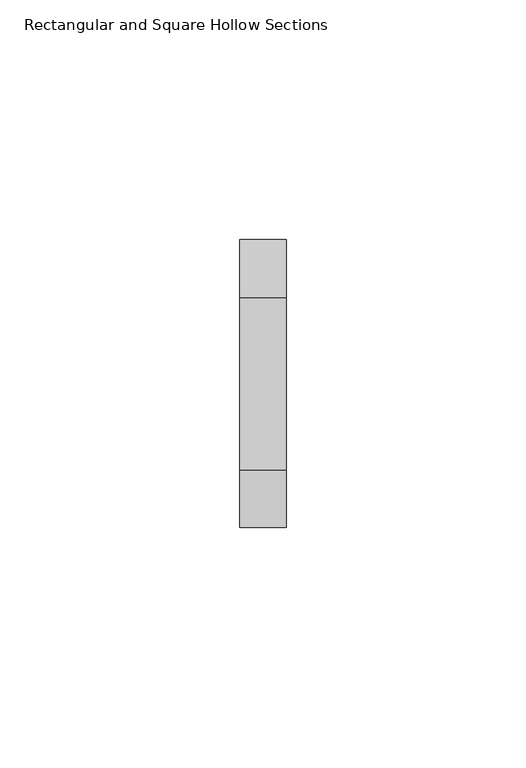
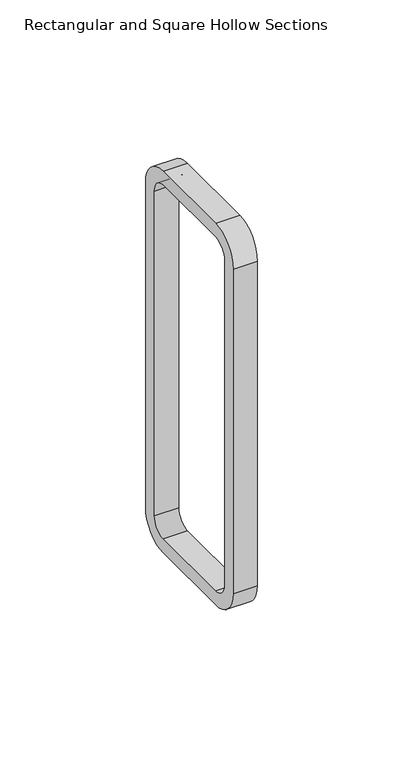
"""IFC4 building model written with IfcOpenShell, lengths in millimetres: beam geometry, Rectangular and Square Hollow Sections : TREC160x60x6."""

import ifcopenshell
import ifcopenshell.guid

model = None  # the IFC model being written
_history = None  # IfcOwnerHistory: only IFC2X3 demands one
_inside = {}  # id of a spatial element -> (the spatial element, [elements in it])
_under = {}  # id of a project, library or spatial element -> (it, [spatial elements below it])
_declared = {}  # id of a project -> (the project, [libraries it declares])
_typed = {}  # id of a type object -> (the type object, [elements of that type])
_made_of = {}  # id of a material, layer set ... -> (it, [elements and type objects made of it])


def new_model(schema):
    """Start an empty IFC model of exactly this schema.

    Asked for "IFC4X3", IfcOpenShell would pick the latest addendum, in which some entities
    have other attributes; the version numbers below select the first issue.
    IFC2X3 requires an IfcOwnerHistory on every rooted entity: one is made here for all.
    """
    global model, _history
    if schema == "IFC4X3":
        model = ifcopenshell.file(schema_version=(4, 3, 0, 0))
    else:
        model = ifcopenshell.file(schema=schema)
    _inside.clear()
    _under.clear()
    _declared.clear()
    _typed.clear()
    _made_of.clear()
    _history = None
    if model.schema == "IFC2X3":
        org = make("IfcOrganization", Name="unknown")
        user = make(
            "IfcPersonAndOrganization",
            ThePerson=make("IfcPerson", FamilyName="unknown"),
            TheOrganization=org,
        )
        app = make(
            "IfcApplication",
            ApplicationDeveloper=org,
            Version="unknown",
            ApplicationFullName="unknown",
            ApplicationIdentifier="unknown",
        )
        _history = make(
            "IfcOwnerHistory",
            OwningUser=user,
            OwningApplication=app,
            ChangeAction="ADDED",
            CreationDate=0,
        )
    return model


def make(cls, **values):
    """One entity of the class cls with the attributes given. An attribute that is None is left unset."""
    return model.create_entity(
        cls, **{name: value for name, value in values.items() if value is not None}
    )


def rooted(cls, **values):
    """An entity with a GlobalId (a new one), such as an element, a storey or a relation."""
    return make(cls, GlobalId=ifcopenshell.guid.new(), OwnerHistory=_history, **values)


def si_unit(unit_type, name, prefix=None):
    """IfcSIUnit, for example si_unit("LENGTHUNIT", "METRE", prefix="MILLI")."""
    return make("IfcSIUnit", UnitType=unit_type, Prefix=prefix, Name=name)


def assignment(units):
    """IfcUnitAssignment: the units of a project."""
    return None if units is None else make("IfcUnitAssignment", Units=units)


def point(xyz):
    """IfcCartesianPoint."""
    return None if xyz is None else make("IfcCartesianPoint", Coordinates=xyz)


def direction(xyz):
    """IfcDirection."""
    return None if xyz is None else make("IfcDirection", DirectionRatios=xyz)


def frame(location, z_axis=None, x_axis=None):
    """IfcAxis2Placement3D, a coordinate frame: its origin and axes. An axis left out is left unset."""
    return make(
        "IfcAxis2Placement3D",
        Location=point(location),
        Axis=direction(z_axis),
        RefDirection=direction(x_axis),
    )


def frame_2d(location, x_axis=None):
    """IfcAxis2Placement2D, a coordinate frame in the plane: its origin and x axis."""
    return make(
        "IfcAxis2Placement2D", Location=point(location), RefDirection=direction(x_axis)
    )


def origin():
    """The frame at (0, 0, 0) with its axes left unset."""
    return frame((0.0, 0.0, 0.0))


def place(relative_to, where):
    """IfcLocalPlacement: puts the frame where relative to a parent placement (None: the world)."""
    return make(
        "IfcLocalPlacement", PlacementRelTo=relative_to, RelativePlacement=where
    )


def context(
    kind, dimensions, precision=None, world=None, true_north=None, identifier=None
):
    """IfcGeometricRepresentationContext, for example the 3D "Model" context."""
    return make(
        "IfcGeometricRepresentationContext",
        ContextIdentifier=identifier,
        ContextType=kind,
        CoordinateSpaceDimension=dimensions,
        Precision=precision,
        WorldCoordinateSystem=world,
        TrueNorth=true_north,
    )


def project(units=None, contexts=None):
    """IfcProject with its units and contexts."""
    return rooted(
        "IfcProject",
        Name="project",
        RepresentationContexts=contexts,
        UnitsInContext=assignment(units),
    )


def spatial(cls, under=None, at=None, **own):
    """A site, building, storey or space (cls), placed at a placement, below another one or the project."""
    s = rooted(cls, ObjectPlacement=at, **own)
    if under is not None:
        _under.setdefault(under.id(), (under, []))[1].append(s)
    return s


def polyline(points):
    """IfcPolyline through the points."""
    return make("IfcPolyline", Points=[point(p) for p in points])


def circle_curve(where, radius):
    """IfcCircle in the frame where."""
    return make("IfcCircle", Position=where, Radius=radius)


def trimmed(basis, trim1, trim2, sense, master):
    """IfcTrimmedCurve: the piece of a basis curve between two trims."""
    return make(
        "IfcTrimmedCurve",
        BasisCurve=basis,
        Trim1=trim1,
        Trim2=trim2,
        SenseAgreement=sense,
        MasterRepresentation=master,
    )


def segment(curve, same_sense, transition):
    """IfcCompositeCurveSegment."""
    return make(
        "IfcCompositeCurveSegment",
        Transition=transition,
        SameSense=same_sense,
        ParentCurve=curve,
    )


def composite_curve(segments, self_intersect=None):
    """IfcCompositeCurve: segments joined end to end."""
    return make("IfcCompositeCurve", Segments=segments, SelfIntersect=self_intersect)


def outline(outer, holes=None, kind="AREA"):
    """IfcArbitraryClosedProfileDef: a profile drawn as a closed curve; with holes, ...WithVoids."""
    if holes is None:
        return make("IfcArbitraryClosedProfileDef", ProfileType=kind, OuterCurve=outer)
    return make(
        "IfcArbitraryProfileDefWithVoids",
        ProfileType=kind,
        OuterCurve=outer,
        InnerCurves=holes,
    )


def extrude(swept, where, along, depth):
    """IfcExtrudedAreaSolid: the profile swept, set in the frame where, extruded along a direction by depth."""
    return make(
        "IfcExtrudedAreaSolid",
        SweptArea=swept,
        Position=where,
        ExtrudedDirection=direction(along),
        Depth=depth,
    )


def shape(context_of_items, identifier, shape_type, items):
    """IfcShapeRepresentation: the items that make up one representation, for example the "Body"."""
    return make(
        "IfcShapeRepresentation",
        ContextOfItems=context_of_items,
        RepresentationIdentifier=identifier,
        RepresentationType=shape_type,
        Items=items,
    )


def source(mapping_origin, context_of_items, identifier, shape_type, items):
    """IfcRepresentationMap: a shape defined once, which mapped items show again and again."""
    return make(
        "IfcRepresentationMap",
        MappingOrigin=mapping_origin,
        MappedRepresentation=shape(context_of_items, identifier, shape_type, items),
    )


def transform(
    local_origin,
    x_axis=None,
    y_axis=None,
    z_axis=None,
    scale=None,
    scale2=None,
    scale3=None,
    uniform=True,
):
    """IfcCartesianTransformationOperator3D, or its non-uniform kind. x_axis, y_axis, z_axis: its Axis1, 2, 3."""
    if uniform:
        return make(
            "IfcCartesianTransformationOperator3D",
            Axis1=direction(x_axis),
            Axis2=direction(y_axis),
            LocalOrigin=point(local_origin),
            Scale=scale,
            Axis3=direction(z_axis),
        )
    return make(
        "IfcCartesianTransformationOperator3DnonUniform",
        Axis1=direction(x_axis),
        Axis2=direction(y_axis),
        LocalOrigin=point(local_origin),
        Scale=scale,
        Axis3=direction(z_axis),
        Scale2=scale2,
        Scale3=scale3,
    )


def mapped(mapping_source, mapping_target):
    """IfcMappedItem: shows the shape of a source again, moved by a transform."""
    return make(
        "IfcMappedItem", MappingSource=mapping_source, MappingTarget=mapping_target
    )


def made_of(thing, what):
    """Note that an element or type object is made of a material, layer set ...; save() writes the relation."""
    if what is not None:
        _made_of.setdefault(what.id(), (what, []))[1].append(thing)
    return thing


def element(
    cls,
    number,
    at=None,
    inside=None,
    cuts=None,
    type_object=None,
    material=None,
    context=None,
    identifier="Body",
    shape_type=None,
    held_by="IfcProductDefinitionShape",
    body=None,
    shapes=None,
    **own,
):
    """One element of the class cls, such as IfcWall. Its Tag is "e" and its number.

    at: its placement. inside: the storey or other place that contains it. cuts: it is an
    opening in that element (IfcRelVoidsElement). A single representation is given by context,
    identifier, shape_type and body (its items); several are given by shapes. held_by: the class
    of the entity that holds the representations. save() writes the other relations.
    """
    e = rooted(cls, Tag="e%d" % number, ObjectPlacement=at, **own)
    if body is not None:
        shapes = [shape(context, identifier, shape_type, body)]
    if shapes is not None:
        e.Representation = make(held_by, Representations=shapes)
    if inside is not None:
        _inside.setdefault(inside.id(), (inside, []))[1].append(e)
    if cuts is not None:
        rooted(
            "IfcRelVoidsElement", RelatingBuildingElement=cuts, RelatedOpeningElement=e
        )
    if type_object is not None:
        _typed.setdefault(type_object.id(), (type_object, []))[1].append(e)
    return made_of(e, material)


def aggregate(whole, parts):
    """IfcRelAggregates: a whole, such as a stair, and the parts it consists of."""
    return rooted("IfcRelAggregates", RelatingObject=whole, RelatedObjects=parts)


def save(model, path):
    """Write the relations noted so far, then the file.

    IfcRelAggregates (storeys below a building ...), IfcRelContainedInSpatialStructure (elements
    in a storey), IfcRelDefinesByType, IfcRelAssociatesMaterial and IfcRelDeclares: one each for
    every whole, place, type object, material and project.
    """
    for whole, parts in _under.values():
        aggregate(whole, parts)
    for where, things in _inside.values():
        rooted(
            "IfcRelContainedInSpatialStructure",
            RelatedElements=things,
            RelatingStructure=where,
        )
    for kind, things in _typed.values():
        rooted("IfcRelDefinesByType", RelatedObjects=things, RelatingType=kind)
    for what, things in _made_of.values():
        rooted("IfcRelAssociatesMaterial", RelatedObjects=things, RelatingMaterial=what)
    for by, libraries in _declared.values():
        rooted("IfcRelDeclares", RelatingContext=by, RelatedDefinitions=libraries)
    model.write(path)


def rectangular_and_square_hollow_sections_5a22e211(model_context):
    return source(origin(), model_context, "Body", "SweptSolid", [
        extrude(outline(composite_curve([segment(polyline([(30.0, 68.0), (30.0, -68.0)]), True, "CONTINUOUS"), segment(trimmed(circle_curve(frame_2d((18.0, -68.0)), 12.0), [point((30.0, -68.0))], [point((18.0, -80.0))], False, "CARTESIAN"), True, "CONTINUOUS"), segment(polyline([(18.0, -80.0), (-18.0, -80.0)]), True, "CONTINUOUS"), segment(trimmed(circle_curve(frame_2d((-18.0, -68.0)), 12.0), [point((-18.0, -80.0))], [point((-30.0, -68.0))], False, "CARTESIAN"), True, "CONTINUOUS"), segment(polyline([(-30.0, -68.0), (-30.0, 68.0)]), True, "CONTINUOUS"), segment(trimmed(circle_curve(frame_2d((-18.0, 68.0)), 12.0), [point((-30.0, 68.0))], [point((-18.0, 80.0))], False, "CARTESIAN"), True, "CONTINUOUS"), segment(polyline([(-18.0, 80.0), (18.0, 80.0)]), True, "CONTINUOUS"), segment(trimmed(circle_curve(frame_2d((18.0, 68.0)), 12.0), [point((18.0, 80.0))], [point((30.0, 68.0))], False, "CARTESIAN"), True, "CONTINUOUS")], self_intersect=False), holes=[composite_curve([segment(trimmed(circle_curve(frame_2d((-18.0, 68.0)), 6.0), [point((-18.0, 74.0))], [point((-24.0, 68.0))], True, "CARTESIAN"), True, "CONTINUOUS"), segment(polyline([(-24.0, 68.0), (-24.0, -68.0)]), True, "CONTINUOUS"), segment(trimmed(circle_curve(frame_2d((-18.0, -68.0)), 6.0), [point((-24.0, -68.0))], [point((-18.0, -74.0))], True, "CARTESIAN"), True, "CONTINUOUS"), segment(polyline([(-18.0, -74.0), (18.0, -74.0)]), True, "CONTINUOUS"), segment(trimmed(circle_curve(frame_2d((18.0, -68.0)), 6.0), [point((18.0, -74.0))], [point((24.0, -68.0))], True, "CARTESIAN"), True, "CONTINUOUS"), segment(polyline([(24.0, -68.0), (24.0, 68.0)]), True, "CONTINUOUS"), segment(trimmed(circle_curve(frame_2d((18.0, 68.0)), 6.0), [point((24.0, 68.0))], [point((18.0, 74.0))], True, "CARTESIAN"), True, "CONTINUOUS"), segment(polyline([(18.0, 74.0), (-18.0, 74.0)]), True, "CONTINUOUS")], self_intersect=False)]), frame((161.7, 0.0, 0.0), z_axis=(1.0, 0.0, 0.0), x_axis=(0.0, 1.0, 0.0)), (0.0, 0.0, 1.0), 9.6),
    ])


if __name__ == "__main__":
    model = new_model("IFC4")
    model_context = context("Model", 3, world=origin())
    ifc_project = project(units=[si_unit("LENGTHUNIT", "METRE", prefix="MILLI")], contexts=[model_context])
    site = spatial("IfcSite", under=ifc_project)
    building = spatial("IfcBuilding", under=site)
    placement = place(None, origin())
    rectangular_and_square_hollow_sections_shape = rectangular_and_square_hollow_sections_5a22e211(model_context)
    element("IfcBeam", 1, ObjectType="Rectangular and Square Hollow Sections : TREC160x60x6", at=placement, inside=building, context=model_context, shape_type="MappedRepresentation", body=[
        mapped(rectangular_and_square_hollow_sections_shape, transform((0.0, 0.0, 0.0), x_axis=(1.0, 0.0, 0.0), y_axis=(0.0, 1.0, 0.0), z_axis=(0.0, 0.0, 1.0))),
    ])
    save(model, "model.ifc")
